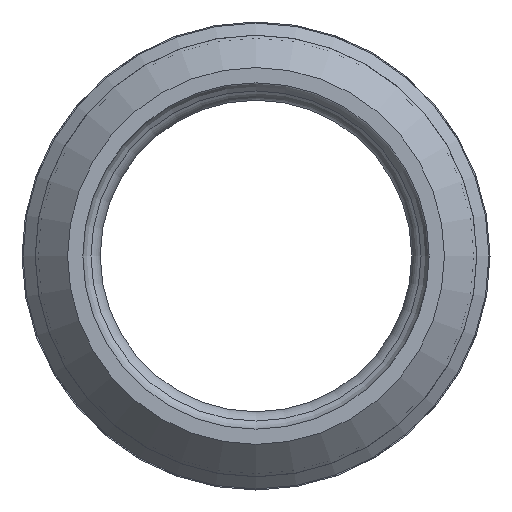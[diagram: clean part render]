
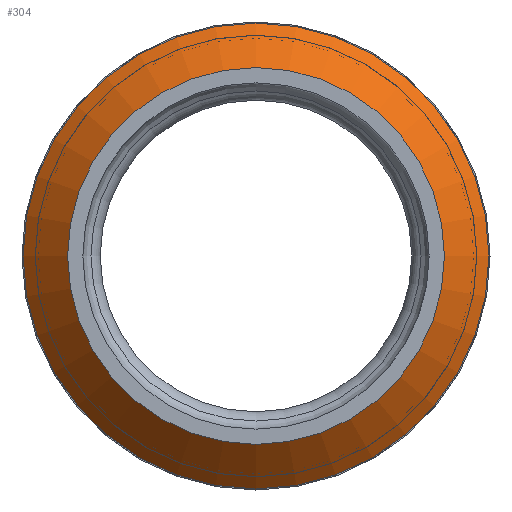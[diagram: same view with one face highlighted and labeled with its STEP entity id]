
A CAD part, front view. The second image highlights one B-rep face of the part: STEP entity #304.
In plain terms, the highlighted conical face has half-angle 45 degrees and reference radius 27.902 mm.
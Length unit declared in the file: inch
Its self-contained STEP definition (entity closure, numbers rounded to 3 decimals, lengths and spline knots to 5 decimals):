
#241=CARTESIAN_POINT('',(0.0,-7.335,-0.8885));
#242=VERTEX_POINT('',#241);
#243=CARTESIAN_POINT('',(0.,-7.335,0.8885));
#244=VERTEX_POINT('',#243);
#245=CARTESIAN_POINT('',(0.0,-7.335,0.0));
#246=DIRECTION('',(0.0,1.0,0.0));
#247=DIRECTION('',(0.0,0.0,-1.0));
#248=AXIS2_PLACEMENT_3D('',#245,#246,#247);
#249=CIRCLE('',#248,0.8885);
#250=EDGE_CURVE('',#242,#244,#249,.T.);
#252=CARTESIAN_POINT('',(0.0,-7.335,0.0));
#253=DIRECTION('',(0.0,1.0,0.0));
#254=DIRECTION('',(0.0,0.0,-1.0));
#255=AXIS2_PLACEMENT_3D('',#252,#253,#254);
#256=CIRCLE('',#255,0.8885);
#257=EDGE_CURVE('',#244,#242,#256,.T.);
#267=CARTESIAN_POINT('',(0.0,-7.125,-1.0985));
#268=VERTEX_POINT('',#267);
#269=CARTESIAN_POINT('',(0.,-7.125,1.0985));
#270=VERTEX_POINT('',#269);
#271=CARTESIAN_POINT('',(0.0,-7.125,0.0));
#272=DIRECTION('',(0.0,-1.0,0.0));
#273=DIRECTION('',(0.0,0.0,-1.0));
#274=AXIS2_PLACEMENT_3D('',#271,#272,#273);
#275=CIRCLE('',#274,1.0985);
#276=EDGE_CURVE('',#268,#270,#275,.T.);
#278=CARTESIAN_POINT('',(0.0,-7.125,0.0));
#279=DIRECTION('',(0.0,-1.0,0.0));
#280=DIRECTION('',(0.0,0.0,-1.0));
#281=AXIS2_PLACEMENT_3D('',#278,#279,#280);
#282=CIRCLE('',#281,1.0985);
#283=EDGE_CURVE('',#270,#268,#282,.T.);
#291=CARTESIAN_POINT('',(0.0,-7.125,0.0));
#292=DIRECTION('',(0.,1.0,0.));
#293=DIRECTION('',(0.0,0.0,-1.0));
#294=AXIS2_PLACEMENT_3D('',#291,#292,#293);
#295=CONICAL_SURFACE('',#294,1.0985,45.);
#296=ORIENTED_EDGE('',*,*,#276,.T.);
#297=ORIENTED_EDGE('',*,*,#283,.T.);
#298=EDGE_LOOP('',(#296,#297));
#299=FACE_OUTER_BOUND('',#298,.T.);
#300=ORIENTED_EDGE('',*,*,#250,.T.);
#301=ORIENTED_EDGE('',*,*,#257,.T.);
#302=EDGE_LOOP('',(#300,#301));
#303=FACE_BOUND('',#302,.T.);
#304=ADVANCED_FACE('',(#299,#303),#295,.T.);
